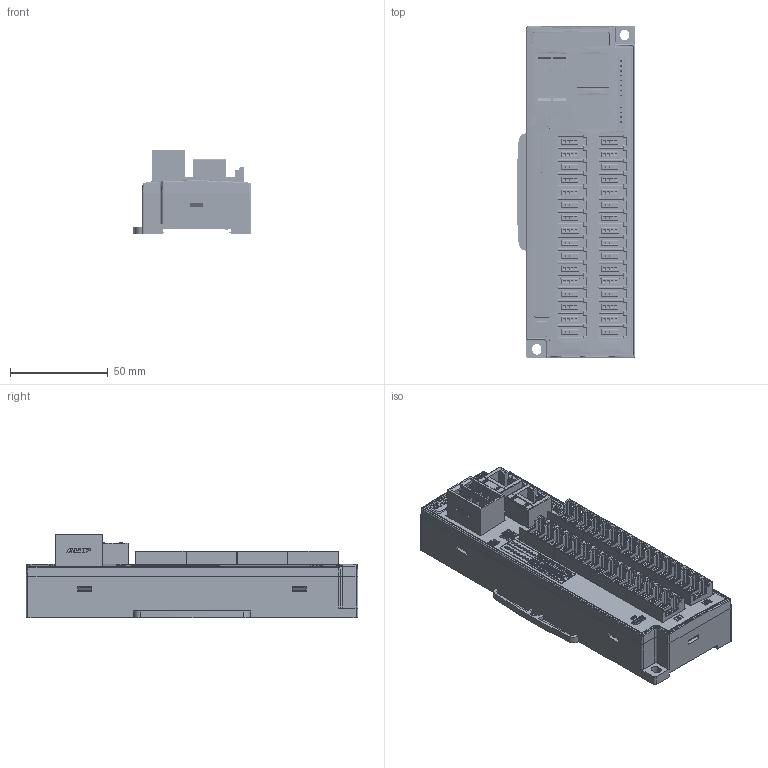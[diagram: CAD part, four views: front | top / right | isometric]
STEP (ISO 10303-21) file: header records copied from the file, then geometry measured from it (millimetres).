
FILE_DESCRIPTION((''),'2;1');
FILE_NAME('CTEPFF','2026-05-11T16:38:23',('gijyu181'),(''),'CREO PARAMETRIC BY PTC INC, 2018050','CREO PARAMETRIC BY PTC INC, 2018050','');
FILE_SCHEMA(('CONFIG_CONTROL_DESIGN','SHAPE_APPEARANCE_LAYERS_GROUPS'));
Products named in the file (1): CTEPFF
Bounding box: 60.87 x 170 x 42.6 mm (x, y, z)
Volume: 222760.2 mm3; surface area: 91373 mm2
Topology: 3 solids, 100 shells, 12771 faces, 35793 edges, 23890 vertices
Faces by surface type: plane 9523, extrusion 1841, cylinder 1304, cone 41, bspline 37, torus 21, sphere 4
Entity records: 513422 total; most frequent: CARTESIAN_POINT 113144, ORIENTED_EDGE 71586, DIRECTION 57916, EDGE_CURVE 35793, VECTOR 29858, LINE 28017, VERTEX_POINT 23890, AXIS2_PLACEMENT_3D 14029
